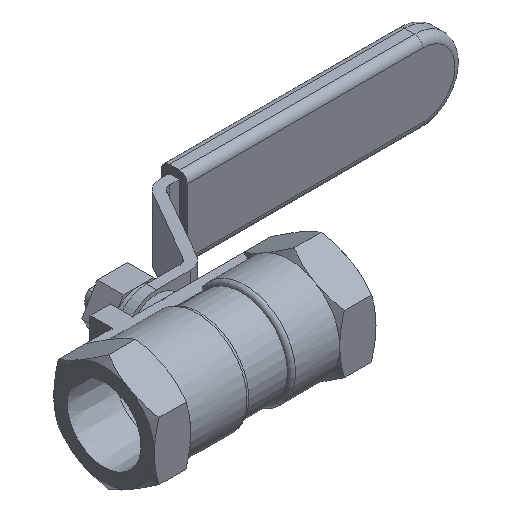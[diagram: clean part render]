
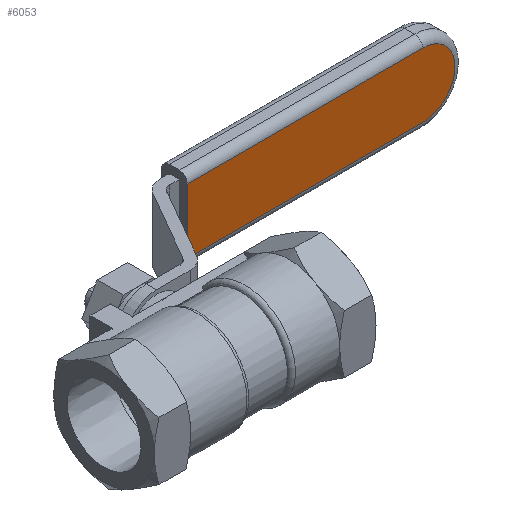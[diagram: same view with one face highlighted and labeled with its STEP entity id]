
A CAD part, isometric view. The second image highlights one B-rep face of the part: STEP entity #6053.
In plain terms, the highlighted planar face has unit normal (0, -1, 0).
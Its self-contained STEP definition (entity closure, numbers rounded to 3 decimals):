
#351=PLANE('',#6474);
#637=FACE_OUTER_BOUND('',#986,.T.);
#986=EDGE_LOOP('',(#5022,#5023,#5024,#5025));
#1584=LINE('',#9517,#2195);
#1587=LINE('',#9532,#2198);
#1597=LINE('',#9564,#2208);
#2195=VECTOR('',#7699,10.);
#2198=VECTOR('',#7716,10.);
#2208=VECTOR('',#7754,10.);
#2378=CIRCLE('',#6457,8.);
#2841=VERTEX_POINT('',#9514);
#2842=VERTEX_POINT('',#9516);
#2844=VERTEX_POINT('',#9522);
#2846=VERTEX_POINT('',#9528);
#3574=EDGE_CURVE('',#2841,#2842,#1584,.T.);
#3579=EDGE_CURVE('',#2842,#2844,#2378,.T.);
#3582=EDGE_CURVE('',#2844,#2846,#1587,.T.);
#3598=EDGE_CURVE('',#2841,#2846,#1597,.T.);
#5022=ORIENTED_EDGE('',*,*,#3574,.F.);
#5023=ORIENTED_EDGE('',*,*,#3598,.T.);
#5024=ORIENTED_EDGE('',*,*,#3582,.F.);
#5025=ORIENTED_EDGE('',*,*,#3579,.F.);
#6053=ADVANCED_FACE('',(#637),#351,.T.);
#6457=AXIS2_PLACEMENT_3D('',#9526,#7709,#7710);
#6474=AXIS2_PLACEMENT_3D('',#9570,#7758,#7759);
#7699=DIRECTION('',(1.,0.,0.));
#7709=DIRECTION('center_axis',(0.,1.,0.));
#7710=DIRECTION('ref_axis',(1.,0.,0.));
#7716=DIRECTION('',(-1.,0.,0.));
#7754=DIRECTION('',(0.,0.,-1.));
#7758=DIRECTION('center_axis',(0.,-1.,0.));
#7759=DIRECTION('ref_axis',(-1.,0.,0.));
#9514=CARTESIAN_POINT('',(1.851,21.439,8.));
#9516=CARTESIAN_POINT('',(60.284,21.439,8.));
#9517=CARTESIAN_POINT('',(1.851,21.439,8.));
#9522=CARTESIAN_POINT('',(60.284,21.439,-8.));
#9526=CARTESIAN_POINT('Origin',(60.284,21.439,0.));
#9528=CARTESIAN_POINT('',(1.851,21.439,-8.));
#9532=CARTESIAN_POINT('',(1.851,21.439,-8.));
#9564=CARTESIAN_POINT('',(1.851,21.439,10.));
#9570=CARTESIAN_POINT('Origin',(1.851,21.439,-10.));
